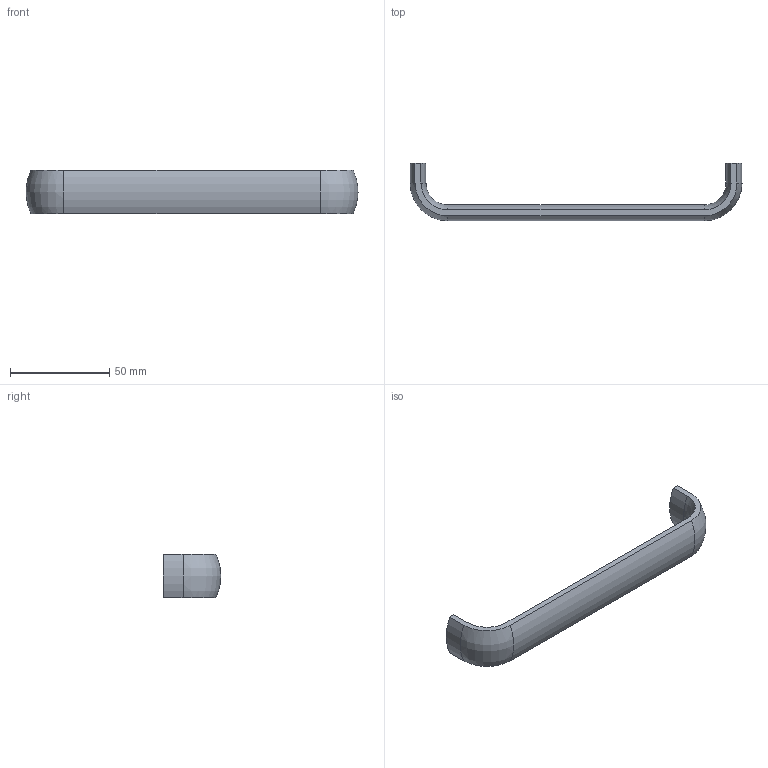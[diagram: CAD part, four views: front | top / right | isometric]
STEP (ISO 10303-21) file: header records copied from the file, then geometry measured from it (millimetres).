
FILE_DESCRIPTION( ( '' ), '1' );
FILE_NAME( 'C:/Documents and Settings/Sachin/Desktop/Sheet 10_1/stp/ 115170.stp', '2013-10-22T08:53:19', ( '' ), ( '' ), ' ', ' ', ' ' );
FILE_SCHEMA( ( 'CONFIG_CONTROL_DESIGN' ) );
Length unit declared in the file: millimetre
Products named in the file (1): 1
Bounding box: 167 x 29 x 22 mm (x, y, z)
Volume: 27209.5 mm3; surface area: 10608.5 mm2
Topology: 1 solids, 1 shells, 26 faces, 66 edges, 44 vertices
Faces by surface type: cylinder 10, plane 10, torus 6
Entity records: 852 total; most frequent: DIRECTION 158, CARTESIAN_POINT 137, ORIENTED_EDGE 132, EDGE_CURVE 66, AXIS2_PLACEMENT_3D 65, VERTEX_POINT 44, CIRCLE 38, EDGE_LOOP 28
